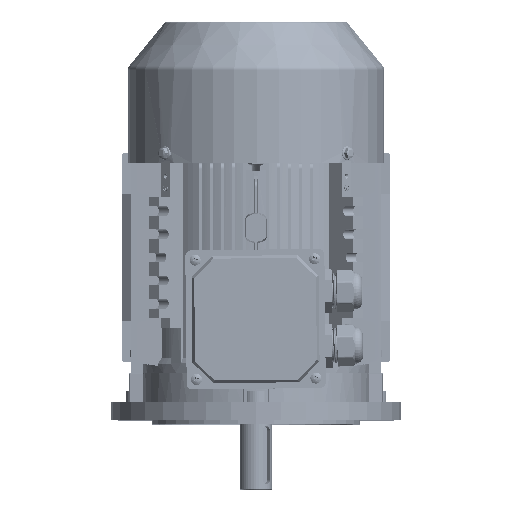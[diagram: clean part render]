
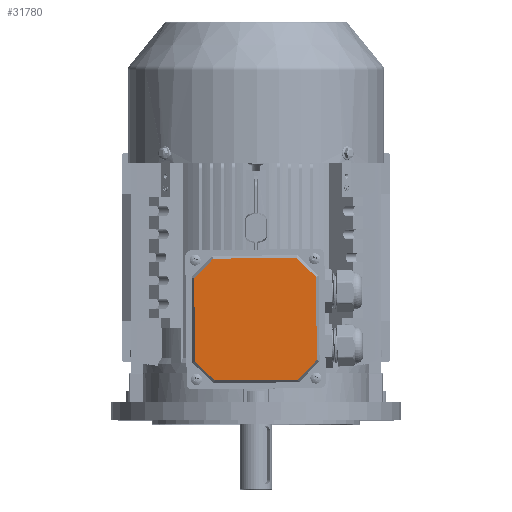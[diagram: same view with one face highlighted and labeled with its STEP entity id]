
A CAD part, top view. The second image highlights one B-rep face of the part: STEP entity #31780.
In plain terms, the highlighted planar face has unit normal (0, 0, 1) as drawn and (0, 0, -1) by its records, which use the part's own axes.
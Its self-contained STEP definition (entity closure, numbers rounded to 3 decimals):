
#5707 = CARTESIAN_POINT ( 'NONE',  ( 52.536, 35.903, -4. ) ) ;
#6808 = EDGE_CURVE ( 'NONE', #16265, #17916, #32099, .T. ) ;
#8894 = DIRECTION ( 'NONE',  ( 0., -1., 0. ) ) ;
#13154 = CARTESIAN_POINT ( 'NONE',  ( 52.536, 0., -4. ) ) ;
#15527 = CARTESIAN_POINT ( 'NONE',  ( -44.22, -44.22, -4. ) ) ;
#16265 = VERTEX_POINT ( 'NONE', #5707 ) ;
#17663 = EDGE_CURVE ( 'NONE', #17916, #20634, #77029, .T. ) ;
#17916 = VERTEX_POINT ( 'NONE', #94304 ) ;
#19175 = FACE_OUTER_BOUND ( 'NONE', #123771, .T. ) ;
#19887 = CARTESIAN_POINT ( 'NONE',  ( -35.903, -52.536, -4. ) ) ;
#20634 = VERTEX_POINT ( 'NONE', #102717 ) ;
#21526 = DIRECTION ( 'NONE',  ( -0.707, 0.707, 0. ) ) ;
#22559 = LINE ( 'NONE', #28476, #45399 ) ;
#23330 = CARTESIAN_POINT ( 'NONE',  ( 35.903, -52.536, -4. ) ) ;
#24954 = LINE ( 'NONE', #76068, #125404 ) ;
#25600 = ORIENTED_EDGE ( 'NONE', *, *, #42112, .F. ) ;
#28476 = CARTESIAN_POINT ( 'NONE',  ( 0., -52.536, -4. ) ) ;
#31780 = ADVANCED_FACE ( 'NONE', ( #19175 ), #43598, .F. ) ;
#32099 = LINE ( 'NONE', #41083, #83851 ) ;
#37680 = VERTEX_POINT ( 'NONE', #23330 ) ;
#37936 = CARTESIAN_POINT ( 'NONE',  ( 52.536, -35.903, -4. ) ) ;
#38644 = DIRECTION ( 'NONE',  ( 1., 0., 0. ) ) ;
#38928 = VERTEX_POINT ( 'NONE', #37936 ) ;
#41083 = CARTESIAN_POINT ( 'NONE',  ( 44.22, 44.22, -4. ) ) ;
#42112 = EDGE_CURVE ( 'NONE', #74914, #37680, #22559, .T. ) ;
#42798 = ORIENTED_EDGE ( 'NONE', *, *, #122450, .F. ) ;
#43294 = ORIENTED_EDGE ( 'NONE', *, *, #102621, .F. ) ;
#43598 = PLANE ( 'NONE',  #75485 ) ;
#43725 = ORIENTED_EDGE ( 'NONE', *, *, #50687, .F. ) ;
#45399 = VECTOR ( 'NONE', #38644, 1000. ) ;
#48722 = LINE ( 'NONE', #83454, #120135 ) ;
#50687 = EDGE_CURVE ( 'NONE', #20634, #72631, #48722, .T. ) ;
#51795 = CARTESIAN_POINT ( 'NONE',  ( 0., 52.536, -4. ) ) ;
#53364 = CARTESIAN_POINT ( 'NONE',  ( 0., 0., -4. ) ) ;
#54418 = DIRECTION ( 'NONE',  ( -0.707, -0.707, 0. ) ) ;
#57375 = CARTESIAN_POINT ( 'NONE',  ( -52.536, 0., -4. ) ) ;
#63138 = DIRECTION ( 'NONE',  ( 1., 0., 0. ) ) ;
#63955 = ORIENTED_EDGE ( 'NONE', *, *, #114189, .F. ) ;
#70725 = ORIENTED_EDGE ( 'NONE', *, *, #102282, .F. ) ;
#71098 = ORIENTED_EDGE ( 'NONE', *, *, #17663, .F. ) ;
#72631 = VERTEX_POINT ( 'NONE', #102389 ) ;
#73826 = DIRECTION ( 'NONE',  ( 0.707, -0.707, 0. ) ) ;
#74914 = VERTEX_POINT ( 'NONE', #19887 ) ;
#75485 = AXIS2_PLACEMENT_3D ( 'NONE', #53364, #121378, #63138 ) ;
#76068 = CARTESIAN_POINT ( 'NONE',  ( 44.22, -44.22, -4. ) ) ;
#77029 = LINE ( 'NONE', #51795, #105996 ) ;
#78829 = LINE ( 'NONE', #13154, #101646 ) ;
#81278 = DIRECTION ( 'NONE',  ( 0., 1., 0. ) ) ;
#83454 = CARTESIAN_POINT ( 'NONE',  ( -44.22, 44.22, -4. ) ) ;
#83851 = VECTOR ( 'NONE', #21526, 1000. ) ;
#85938 = DIRECTION ( 'NONE',  ( 0.707, 0.707, 0. ) ) ;
#88067 = CARTESIAN_POINT ( 'NONE',  ( -52.536, -35.903, -4. ) ) ;
#94304 = CARTESIAN_POINT ( 'NONE',  ( 35.903, 52.536, -4. ) ) ;
#97505 = VECTOR ( 'NONE', #73826, 1000. ) ;
#99898 = VERTEX_POINT ( 'NONE', #88067 ) ;
#100531 = LINE ( 'NONE', #15527, #97505 ) ;
#101646 = VECTOR ( 'NONE', #81278, 1000. ) ;
#102282 = EDGE_CURVE ( 'NONE', #38928, #16265, #78829, .T. ) ;
#102389 = CARTESIAN_POINT ( 'NONE',  ( -52.536, 35.903, -4. ) ) ;
#102621 = EDGE_CURVE ( 'NONE', #72631, #99898, #116750, .T. ) ;
#102717 = CARTESIAN_POINT ( 'NONE',  ( -35.903, 52.536, -4. ) ) ;
#105996 = VECTOR ( 'NONE', #110053, 1000. ) ;
#106990 = ORIENTED_EDGE ( 'NONE', *, *, #6808, .F. ) ;
#110053 = DIRECTION ( 'NONE',  ( -1., 0., 0. ) ) ;
#114189 = EDGE_CURVE ( 'NONE', #37680, #38928, #24954, .T. ) ;
#116750 = LINE ( 'NONE', #57375, #119776 ) ;
#119776 = VECTOR ( 'NONE', #8894, 1000. ) ;
#120135 = VECTOR ( 'NONE', #54418, 1000. ) ;
#121378 = DIRECTION ( 'NONE',  ( 0., 0., 1. ) ) ;
#122450 = EDGE_CURVE ( 'NONE', #99898, #74914, #100531, .T. ) ;
#123771 = EDGE_LOOP ( 'NONE', ( #70725, #63955, #25600, #42798, #43294, #43725, #71098, #106990 ) ) ;
#125404 = VECTOR ( 'NONE', #85938, 1000. ) ;
